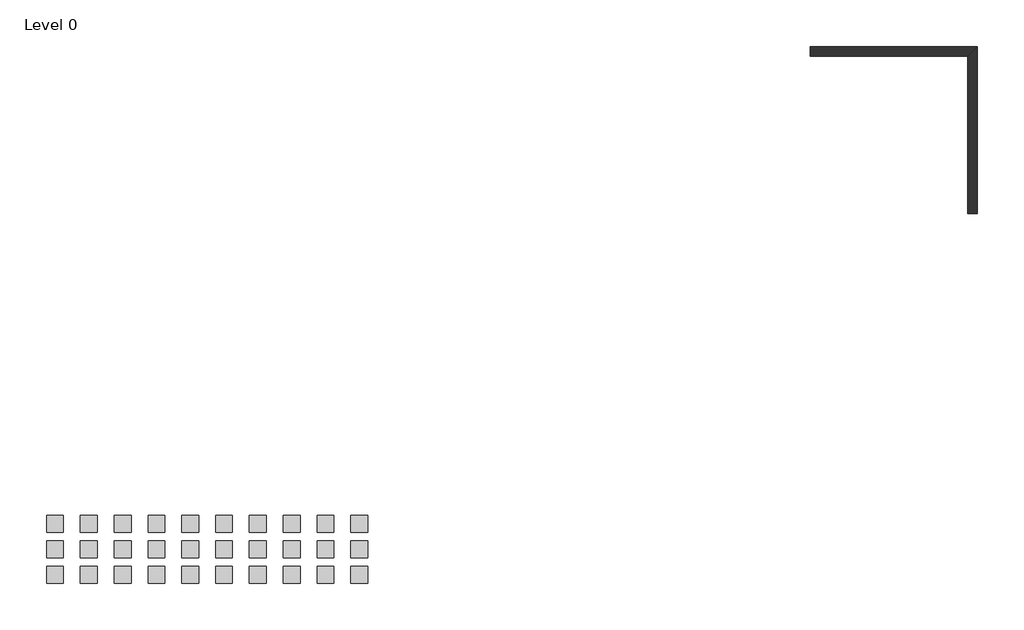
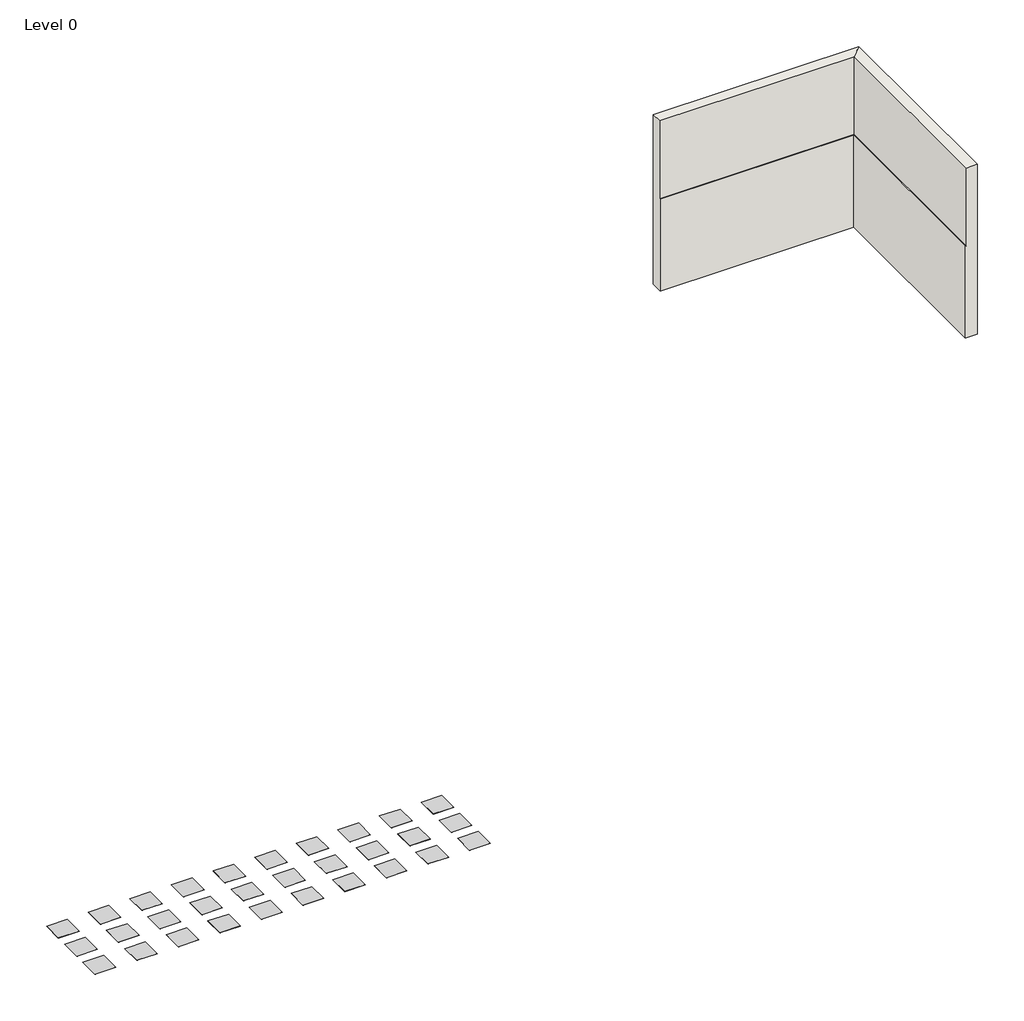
# One storey: 30 proxies, 2 walls.
"""IFC4 building model written with IfcOpenShell, lengths in millimetres."""

from ifc_helpers import new_model, si_unit, origin, place, context, project, spatial, faceted_brep, transform, mapped, element, save
from components import generic_models_6cfe643e

model = new_model("IFC4")

# Units and contexts
model_context = context("Model", 3, world=origin())
ifc_project = project(units=[si_unit("LENGTHUNIT", "METRE", prefix="MILLI")], contexts=[model_context])

# Site, building, storey
site = spatial("IfcSite", under=ifc_project)
building = spatial("IfcBuilding", under=site)
storey = spatial("IfcBuildingStorey", under=building, Name="Level 0", Elevation=0.0)

# Proxies
placement = place(None, origin())
generic_models_shape = generic_models_6cfe643e(model_context)
element("IfcBuildingElementProxy", 1, Name="Loggia_Placeholder : Loggia Placeholder", ObjectType="Loggia_Placeholder : Loggia Placeholder", at=placement, inside=storey, context=model_context, shape_type="MappedRepresentation", body=[
    mapped(generic_models_shape, transform((-9313.2527463, -6652.9338, 0.0), x_axis=(1.0, 0.0, 0.0), y_axis=(0.0, 1.0, 0.0), z_axis=(0.0, 0.0, 1.0))),
])
element("IfcBuildingElementProxy", 2, Name="Loggia_Placeholder : Loggia Placeholder", ObjectType="Loggia_Placeholder : Loggia Placeholder", at=placement, inside=storey, context=model_context, shape_type="MappedRepresentation", body=[
    mapped(generic_models_shape, transform((-8710.0527463, -6652.9338, 0.0), x_axis=(1.0, 0.0, 0.0), y_axis=(0.0, 1.0, 0.0), z_axis=(0.0, 0.0, 1.0))),
])
element("IfcBuildingElementProxy", 3, Name="Loggia_Placeholder : Loggia Placeholder", ObjectType="Loggia_Placeholder : Loggia Placeholder", at=placement, inside=storey, context=model_context, shape_type="MappedRepresentation", body=[
    mapped(generic_models_shape, transform((-8106.8527463, -6652.9338, 0.0), x_axis=(1.0, 0.0, 0.0), y_axis=(0.0, 1.0, 0.0), z_axis=(0.0, 0.0, 1.0))),
])
element("IfcBuildingElementProxy", 4, Name="Loggia_Placeholder : Loggia Placeholder", ObjectType="Loggia_Placeholder : Loggia Placeholder", at=placement, inside=storey, context=model_context, shape_type="MappedRepresentation", body=[
    mapped(generic_models_shape, transform((-7503.6527463, -6652.9338, 0.0), x_axis=(1.0, 0.0, 0.0), y_axis=(0.0, 1.0, 0.0), z_axis=(0.0, 0.0, 1.0))),
])
element("IfcBuildingElementProxy", 5, Name="Loggia_Placeholder : Loggia Placeholder", ObjectType="Loggia_Placeholder : Loggia Placeholder", at=placement, inside=storey, context=model_context, shape_type="MappedRepresentation", body=[
    mapped(generic_models_shape, transform((-6900.4527463, -6652.9338, 0.0), x_axis=(1.0, 0.0, 0.0), y_axis=(0.0, 1.0, 0.0), z_axis=(0.0, 0.0, 1.0))),
])
element("IfcBuildingElementProxy", 6, Name="Loggia_Placeholder : Loggia Placeholder", ObjectType="Loggia_Placeholder : Loggia Placeholder", at=placement, inside=storey, context=model_context, shape_type="MappedRepresentation", body=[
    mapped(generic_models_shape, transform((-6297.2527463, -6652.9338, 0.0), x_axis=(1.0, 0.0, 0.0), y_axis=(0.0, 1.0, 0.0), z_axis=(0.0, 0.0, 1.0))),
])
element("IfcBuildingElementProxy", 7, Name="Loggia_Placeholder : Loggia Placeholder", ObjectType="Loggia_Placeholder : Loggia Placeholder", at=placement, inside=storey, context=model_context, shape_type="MappedRepresentation", body=[
    mapped(generic_models_shape, transform((-5694.0527463, -6652.9338, 0.0), x_axis=(1.0, 0.0, 0.0), y_axis=(0.0, 1.0, 0.0), z_axis=(0.0, 0.0, 1.0))),
])
element("IfcBuildingElementProxy", 8, Name="Loggia_Placeholder : Loggia Placeholder", ObjectType="Loggia_Placeholder : Loggia Placeholder", at=placement, inside=storey, context=model_context, shape_type="MappedRepresentation", body=[
    mapped(generic_models_shape, transform((-5090.8527463, -6652.9338, 0.0), x_axis=(1.0, 0.0, 0.0), y_axis=(0.0, 1.0, 0.0), z_axis=(0.0, 0.0, 1.0))),
])
element("IfcBuildingElementProxy", 9, Name="Loggia_Placeholder : Loggia Placeholder", ObjectType="Loggia_Placeholder : Loggia Placeholder", at=placement, inside=storey, context=model_context, shape_type="MappedRepresentation", body=[
    mapped(generic_models_shape, transform((-4487.6527463, -6652.9338, 0.0), x_axis=(1.0, 0.0, 0.0), y_axis=(0.0, 1.0, 0.0), z_axis=(0.0, 0.0, 1.0))),
])
element("IfcBuildingElementProxy", 10, Name="Loggia_Placeholder : Loggia Placeholder", ObjectType="Loggia_Placeholder : Loggia Placeholder", at=placement, inside=storey, context=model_context, shape_type="MappedRepresentation", body=[
    mapped(generic_models_shape, transform((-3884.4527463, -6652.9338, 0.0), x_axis=(1.0, 0.0, 0.0), y_axis=(0.0, 1.0, 0.0), z_axis=(0.0, 0.0, 1.0))),
])
element("IfcBuildingElementProxy", 11, Name="Loggia_Placeholder : Loggia Placeholder", ObjectType="Loggia_Placeholder : Loggia Placeholder", at=placement, inside=storey, context=model_context, shape_type="MappedRepresentation", body=[
    mapped(generic_models_shape, transform((-9313.2527463, -7110.1338, 0.0), x_axis=(1.0, 0.0, 0.0), y_axis=(0.0, 1.0, 0.0), z_axis=(0.0, 0.0, 1.0))),
])
element("IfcBuildingElementProxy", 12, Name="Loggia_Placeholder : Loggia Placeholder", ObjectType="Loggia_Placeholder : Loggia Placeholder", at=placement, inside=storey, context=model_context, shape_type="MappedRepresentation", body=[
    mapped(generic_models_shape, transform((-8710.0527463, -7110.1338, 0.0), x_axis=(1.0, 0.0, 0.0), y_axis=(0.0, 1.0, 0.0), z_axis=(0.0, 0.0, 1.0))),
])
element("IfcBuildingElementProxy", 13, Name="Loggia_Placeholder : Loggia Placeholder", ObjectType="Loggia_Placeholder : Loggia Placeholder", at=placement, inside=storey, context=model_context, shape_type="MappedRepresentation", body=[
    mapped(generic_models_shape, transform((-8106.8527463, -7110.1338, 0.0), x_axis=(1.0, 0.0, 0.0), y_axis=(0.0, 1.0, 0.0), z_axis=(0.0, 0.0, 1.0))),
])
element("IfcBuildingElementProxy", 14, Name="Loggia_Placeholder : Loggia Placeholder", ObjectType="Loggia_Placeholder : Loggia Placeholder", at=placement, inside=storey, context=model_context, shape_type="MappedRepresentation", body=[
    mapped(generic_models_shape, transform((-7503.6527463, -7110.1338, 0.0), x_axis=(1.0, 0.0, 0.0), y_axis=(0.0, 1.0, 0.0), z_axis=(0.0, 0.0, 1.0))),
])
element("IfcBuildingElementProxy", 15, Name="Loggia_Placeholder : Loggia Placeholder", ObjectType="Loggia_Placeholder : Loggia Placeholder", at=placement, inside=storey, context=model_context, shape_type="MappedRepresentation", body=[
    mapped(generic_models_shape, transform((-6900.4527463, -7110.1338, 0.0), x_axis=(1.0, 0.0, 0.0), y_axis=(0.0, 1.0, 0.0), z_axis=(0.0, 0.0, 1.0))),
])
element("IfcBuildingElementProxy", 16, Name="Loggia_Placeholder : Loggia Placeholder", ObjectType="Loggia_Placeholder : Loggia Placeholder", at=placement, inside=storey, context=model_context, shape_type="MappedRepresentation", body=[
    mapped(generic_models_shape, transform((-6297.2527463, -7110.1338, 0.0), x_axis=(1.0, 0.0, 0.0), y_axis=(0.0, 1.0, 0.0), z_axis=(0.0, 0.0, 1.0))),
])
element("IfcBuildingElementProxy", 17, Name="Loggia_Placeholder : Loggia Placeholder", ObjectType="Loggia_Placeholder : Loggia Placeholder", at=placement, inside=storey, context=model_context, shape_type="MappedRepresentation", body=[
    mapped(generic_models_shape, transform((-5694.0527463, -7110.1338, 0.0), x_axis=(1.0, 0.0, 0.0), y_axis=(0.0, 1.0, 0.0), z_axis=(0.0, 0.0, 1.0))),
])
element("IfcBuildingElementProxy", 18, Name="Loggia_Placeholder : Loggia Placeholder", ObjectType="Loggia_Placeholder : Loggia Placeholder", at=placement, inside=storey, context=model_context, shape_type="MappedRepresentation", body=[
    mapped(generic_models_shape, transform((-5090.8527463, -7110.1338, 0.0), x_axis=(1.0, 0.0, 0.0), y_axis=(0.0, 1.0, 0.0), z_axis=(0.0, 0.0, 1.0))),
])
element("IfcBuildingElementProxy", 19, Name="Loggia_Placeholder : Loggia Placeholder", ObjectType="Loggia_Placeholder : Loggia Placeholder", at=placement, inside=storey, context=model_context, shape_type="MappedRepresentation", body=[
    mapped(generic_models_shape, transform((-4487.6527463, -7110.1338, 0.0), x_axis=(1.0, 0.0, 0.0), y_axis=(0.0, 1.0, 0.0), z_axis=(0.0, 0.0, 1.0))),
])
element("IfcBuildingElementProxy", 20, Name="Loggia_Placeholder : Loggia Placeholder", ObjectType="Loggia_Placeholder : Loggia Placeholder", at=placement, inside=storey, context=model_context, shape_type="MappedRepresentation", body=[
    mapped(generic_models_shape, transform((-3884.4527463, -7110.1338, 0.0), x_axis=(1.0, 0.0, 0.0), y_axis=(0.0, 1.0, 0.0), z_axis=(0.0, 0.0, 1.0))),
])
element("IfcBuildingElementProxy", 21, Name="Loggia_Placeholder : Loggia Placeholder", ObjectType="Loggia_Placeholder : Loggia Placeholder", at=placement, inside=storey, context=model_context, shape_type="MappedRepresentation", body=[
    mapped(generic_models_shape, transform((-9313.2527463, -7567.3338, 0.0), x_axis=(1.0, 0.0, 0.0), y_axis=(0.0, 1.0, 0.0), z_axis=(0.0, 0.0, 1.0))),
])
element("IfcBuildingElementProxy", 22, Name="Loggia_Placeholder : Loggia Placeholder", ObjectType="Loggia_Placeholder : Loggia Placeholder", at=placement, inside=storey, context=model_context, shape_type="MappedRepresentation", body=[
    mapped(generic_models_shape, transform((-8710.0527463, -7567.3338, 0.0), x_axis=(1.0, 0.0, 0.0), y_axis=(0.0, 1.0, 0.0), z_axis=(0.0, 0.0, 1.0))),
])
element("IfcBuildingElementProxy", 23, Name="Loggia_Placeholder : Loggia Placeholder", ObjectType="Loggia_Placeholder : Loggia Placeholder", at=placement, inside=storey, context=model_context, shape_type="MappedRepresentation", body=[
    mapped(generic_models_shape, transform((-8106.8527463, -7567.3338, 0.0), x_axis=(1.0, 0.0, 0.0), y_axis=(0.0, 1.0, 0.0), z_axis=(0.0, 0.0, 1.0))),
])
element("IfcBuildingElementProxy", 24, Name="Loggia_Placeholder : Loggia Placeholder", ObjectType="Loggia_Placeholder : Loggia Placeholder", at=placement, inside=storey, context=model_context, shape_type="MappedRepresentation", body=[
    mapped(generic_models_shape, transform((-7503.6527463, -7567.3338, 0.0), x_axis=(1.0, 0.0, 0.0), y_axis=(0.0, 1.0, 0.0), z_axis=(0.0, 0.0, 1.0))),
])
element("IfcBuildingElementProxy", 25, Name="Loggia_Placeholder : Loggia Placeholder", ObjectType="Loggia_Placeholder : Loggia Placeholder", at=placement, inside=storey, context=model_context, shape_type="MappedRepresentation", body=[
    mapped(generic_models_shape, transform((-6900.4527463, -7567.3338, 0.0), x_axis=(1.0, 0.0, 0.0), y_axis=(0.0, 1.0, 0.0), z_axis=(0.0, 0.0, 1.0))),
])
element("IfcBuildingElementProxy", 26, Name="Loggia_Placeholder : Loggia Placeholder", ObjectType="Loggia_Placeholder : Loggia Placeholder", at=placement, inside=storey, context=model_context, shape_type="MappedRepresentation", body=[
    mapped(generic_models_shape, transform((-6297.2527463, -7567.3338, 0.0), x_axis=(1.0, 0.0, 0.0), y_axis=(0.0, 1.0, 0.0), z_axis=(0.0, 0.0, 1.0))),
])
element("IfcBuildingElementProxy", 27, Name="Loggia_Placeholder : Loggia Placeholder", ObjectType="Loggia_Placeholder : Loggia Placeholder", at=placement, inside=storey, context=model_context, shape_type="MappedRepresentation", body=[
    mapped(generic_models_shape, transform((-5694.0527463, -7567.3338, 0.0), x_axis=(1.0, 0.0, 0.0), y_axis=(0.0, 1.0, 0.0), z_axis=(0.0, 0.0, 1.0))),
])
element("IfcBuildingElementProxy", 28, Name="Loggia_Placeholder : Loggia Placeholder", ObjectType="Loggia_Placeholder : Loggia Placeholder", at=placement, inside=storey, context=model_context, shape_type="MappedRepresentation", body=[
    mapped(generic_models_shape, transform((-5090.8527463, -7567.3338, 0.0), x_axis=(1.0, 0.0, 0.0), y_axis=(0.0, 1.0, 0.0), z_axis=(0.0, 0.0, 1.0))),
])
element("IfcBuildingElementProxy", 29, Name="Loggia_Placeholder : Loggia Placeholder", ObjectType="Loggia_Placeholder : Loggia Placeholder", at=placement, inside=storey, context=model_context, shape_type="MappedRepresentation", body=[
    mapped(generic_models_shape, transform((-4487.6527463, -7567.3338, 0.0), x_axis=(1.0, 0.0, 0.0), y_axis=(0.0, 1.0, 0.0), z_axis=(0.0, 0.0, 1.0))),
])
element("IfcBuildingElementProxy", 30, Name="Loggia_Placeholder : Loggia Placeholder", ObjectType="Loggia_Placeholder : Loggia Placeholder", at=placement, inside=storey, context=model_context, shape_type="MappedRepresentation", body=[
    mapped(generic_models_shape, transform((-3884.4527463, -7567.3338, 0.0), x_axis=(1.0, 0.0, 0.0), y_axis=(0.0, 1.0, 0.0), z_axis=(0.0, 0.0, 1.0))),
])

# Walls
element("IfcWall", 31, ObjectType="Wall_Generic_Loggia-Showcase", at=placement, inside=storey, context=model_context, shape_type="Brep", body=[
    faceted_brep([(4160.5903752, 1688.5585818, 0.0), (6964.5903752, 1688.5585818, 0.0), (6964.5903752, 1688.5585818, 1406.4126577), (4160.5903752, 1688.5585818, 1406.4126577), (4160.5903752, 1864.5585818, 0.0), (4160.5903752, 1864.5585818, 2600.0), (7140.5903752, 1864.5585818, 2600.0), (7140.5903752, 1864.5585818, 0.0), (4160.5903752, 1704.5585818, 1406.4126577), (4160.5903752, 1704.5585818, 2600.0), (6980.5903752, 1704.5585818, 2600.0), (6980.5903752, 1704.5585818, 1406.4126577)], [[[0, 1, 2, 3]], [[4, 5, 6, 7]], [[1, 0, 4, 7]], [[0, 3, 8, 9, 5, 4]], [[10, 6, 5, 9]], [[8, 11, 10, 9]], [[3, 2, 11, 8]], [[2, 1, 7, 6, 10, 11]]]),
])
element("IfcWall", 32, ObjectType="Wall_Generic_Loggia-Showcase", at=placement, inside=storey, context=model_context, shape_type="Brep", body=[
    faceted_brep([(6964.5903752, 1688.5585818, 0.0), (6964.5903752, -1115.4414182, 0.0), (6964.5903752, -1115.4414182, 1406.4126577), (6964.5903752, 1688.5585818, 1406.4126577), (7140.5903752, 1864.5585818, 0.0), (7140.5903752, 1864.5585818, 2600.0), (7140.5903752, -1115.4414182, 2600.0), (7140.5903752, -1115.4414182, 0.0), (6980.5903752, -1115.4414182, 2600.0), (6980.5903752, -1115.4414182, 1406.4126577), (6980.5903752, 1704.5585818, 2600.0), (6980.5903752, 1704.5585818, 1406.4126577)], [[[0, 1, 2, 3]], [[4, 5, 6, 7]], [[1, 0, 4, 7]], [[2, 1, 7, 6, 8, 9]], [[8, 6, 5, 10]], [[11, 9, 8, 10]], [[3, 2, 9, 11]], [[0, 3, 11, 10, 5, 4]]]),
])

save(model, "model.ifc")
